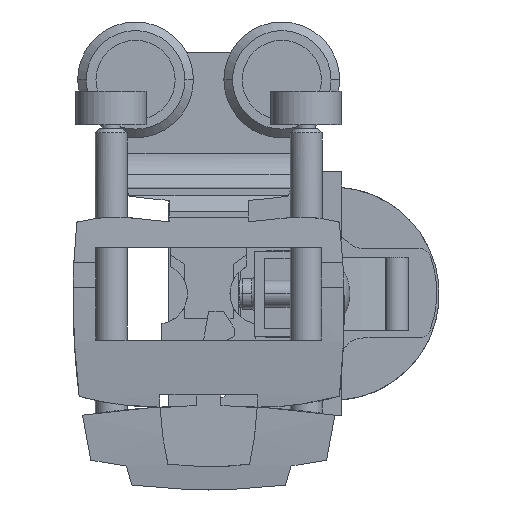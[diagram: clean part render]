
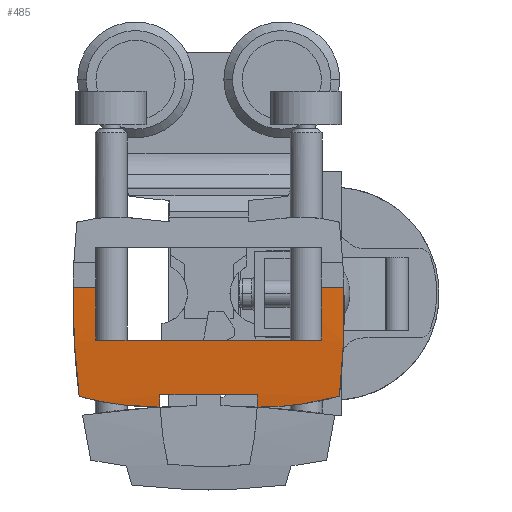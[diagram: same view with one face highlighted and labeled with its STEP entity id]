
A CAD part, front view. The second image highlights one B-rep face of the part: STEP entity #485.
In plain terms, the highlighted cylindrical face has radius 155 mm (diameter 310 mm), a partial arc.
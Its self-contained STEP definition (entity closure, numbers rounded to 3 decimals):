
#485 = ADVANCED_FACE( '', ( #1389 ), #1390, .T. );
#1389 = FACE_OUTER_BOUND( '', #2335, .T. );
#1390 = CYLINDRICAL_SURFACE( '', #2336, 155. );
#2335 = EDGE_LOOP( '', ( #6008, #6009, #6010, #6011, #6012, #6013, #6014, #6015, #6016, #6017, #6018, #6019 ) );
#2336 = AXIS2_PLACEMENT_3D( '', #6020, #6021, #6022 );
#6008 = ORIENTED_EDGE( '', *, *, #7434, .F. );
#6009 = ORIENTED_EDGE( '', *, *, #7591, .F. );
#6010 = ORIENTED_EDGE( '', *, *, #7543, .F. );
#6011 = ORIENTED_EDGE( '', *, *, #7592, .F. );
#6012 = ORIENTED_EDGE( '', *, *, #7593, .F. );
#6013 = ORIENTED_EDGE( '', *, *, #7306, .F. );
#6014 = ORIENTED_EDGE( '', *, *, #7594, .F. );
#6015 = ORIENTED_EDGE( '', *, *, #7515, .F. );
#6016 = ORIENTED_EDGE( '', *, *, #7567, .F. );
#6017 = ORIENTED_EDGE( '', *, *, #7418, .F. );
#6018 = ORIENTED_EDGE( '', *, *, #7359, .T. );
#6019 = ORIENTED_EDGE( '', *, *, #7314, .F. );
#6020 = CARTESIAN_POINT( '', ( 23., 135.987, 3.101 ) );
#6021 = DIRECTION( '', ( 1., 0., 0. ) );
#6022 = DIRECTION( '', ( 0., -0.989, -0.149 ) );
#7306 = EDGE_CURVE( '', #9273, #9274, #9275, .T. );
#7314 = EDGE_CURVE( '', #9286, #9287, #9288, .T. );
#7359 = EDGE_CURVE( '', #9347, #9287, #9348, .T. );
#7418 = EDGE_CURVE( '', #9347, #9438, #9439, .T. );
#7434 = EDGE_CURVE( '', #9465, #9286, #9467, .T. );
#7515 = EDGE_CURVE( '', #9590, #9592, #9593, .T. );
#7543 = EDGE_CURVE( '', #9635, #9637, #9638, .T. );
#7567 = EDGE_CURVE( '', #9438, #9590, #9675, .T. );
#7591 = EDGE_CURVE( '', #9637, #9465, #9714, .T. );
#7592 = EDGE_CURVE( '', #9715, #9635, #9716, .T. );
#7593 = EDGE_CURVE( '', #9274, #9715, #9717, .T. );
#7594 = EDGE_CURVE( '', #9592, #9273, #9718, .T. );
#9273 = VERTEX_POINT( '', #12536 );
#9274 = VERTEX_POINT( '', #12537 );
#9275 = LINE( '', #12538, #12539 );
#9286 = VERTEX_POINT( '', #12557 );
#9287 = VERTEX_POINT( '', #12558 );
#9288 = LINE( '', #12559, #12560 );
#9347 = VERTEX_POINT( '', #12740 );
#9348 = CIRCLE( '', #12741, 155. );
#9438 = VERTEX_POINT( '', #12998 );
#9439 = LINE( '', #12999, #13000 );
#9465 = VERTEX_POINT( '', #13064 );
#9467 = CIRCLE( '', #13067, 155. );
#9590 = VERTEX_POINT( '', #13233 );
#9592 = VERTEX_POINT( '', #13236 );
#9593 = B_SPLINE_CURVE_WITH_KNOTS( '', 3, ( #13237, #13238, #13239, #13240, #13241, #13242, #13243, #13244, #13245, #13246 ), .UNSPECIFIED., .F., .F., ( 4, 2, 2, 2, 4 ), ( 63.32, 66.796, 71.554, 76.312, 76.48 ), .UNSPECIFIED. );
#9635 = VERTEX_POINT( '', #13354 );
#9637 = VERTEX_POINT( '', #13357 );
#9638 = B_SPLINE_CURVE_WITH_KNOTS( '', 3, ( #13358, #13359, #13360, #13361, #13362, #13363, #13364, #13365 ), .UNSPECIFIED., .F., .F., ( 4, 2, 2, 4 ), ( 9.044, 13.947, 20.921, 25.919 ), .UNSPECIFIED. );
#9675 = B_SPLINE_CURVE_WITH_KNOTS( '', 3, ( #13489, #13490, #13491, #13492, #13493, #13494, #13495, #13496 ), .UNSPECIFIED., .F., .F., ( 4, 2, 2, 4 ), ( 29.925, 34.885, 41.862, 46.764 ), .UNSPECIFIED. );
#9714 = LINE( '', #13581, #13582 );
#9715 = VERTEX_POINT( '', #13583 );
#9716 = B_SPLINE_CURVE_WITH_KNOTS( '', 3, ( #13584, #13585, #13586, #13587, #13588, #13589, #13590, #13591, #13592, #13593 ), .UNSPECIFIED., .F., .F., ( 4, 2, 2, 2, 4 ), ( 76.226, 76.298, 81.055, 85.812, 89.189 ), .UNSPECIFIED. );
#9717 = ELLIPSE( '', #13594, 155.006, 155. );
#9718 = ELLIPSE( '', #13595, 155.006, 155. );
#12536 = CARTESIAN_POINT( '', ( 8., -17.756, -16.6 ) );
#12537 = CARTESIAN_POINT( '', ( -8., -17.756, -16.6 ) );
#12538 = CARTESIAN_POINT( '', ( 0., -17.756, -16.6 ) );
#12539 = VECTOR( '', #15142, 1. );
#12557 = CARTESIAN_POINT( '', ( -18.5, -18.644, -7.6 ) );
#12558 = CARTESIAN_POINT( '', ( 18.5, -18.644, -7.6 ) );
#12559 = CARTESIAN_POINT( '', ( 13.1, -18.644, -7.6 ) );
#12560 = VECTOR( '', #15150, 1. );
#12740 = CARTESIAN_POINT( '', ( 18.5, -19., 1.066 ) );
#12741 = AXIS2_PLACEMENT_3D( '', #15230, #15231, #15232 );
#12998 = CARTESIAN_POINT( '', ( 22.186, -19., 1.066 ) );
#12999 = CARTESIAN_POINT( '', ( -0.007, -19., 1.066 ) );
#13000 = VECTOR( '', #15309, 1. );
#13064 = CARTESIAN_POINT( '', ( -18.5, -19., 1.066 ) );
#13067 = AXIS2_PLACEMENT_3D( '', #15327, #15328, #15329 );
#13233 = CARTESIAN_POINT( '', ( 21.45, -17.729, -16.812 ) );
#13236 = CARTESIAN_POINT( '', ( 8.017, -17.487, -18.6 ) );
#13237 = CARTESIAN_POINT( '', ( 21.45, -17.729, -16.812 ) );
#13238 = CARTESIAN_POINT( '', ( 20.271, -17.687, -17.136 ) );
#13239 = CARTESIAN_POINT( '', ( 19.083, -17.65, -17.415 ) );
#13240 = CARTESIAN_POINT( '', ( 16.265, -17.575, -17.972 ) );
#13241 = CARTESIAN_POINT( '', ( 14.631, -17.541, -18.211 ) );
#13242 = CARTESIAN_POINT( '', ( 11.384, -17.497, -18.525 ) );
#13243 = CARTESIAN_POINT( '', ( 9.772, -17.487, -18.6 ) );
#13244 = CARTESIAN_POINT( '', ( 8.13, -17.487, -18.6 ) );
#13245 = CARTESIAN_POINT( '', ( 8.073, -17.487, -18.6 ) );
#13246 = CARTESIAN_POINT( '', ( 8.017, -17.487, -18.6 ) );
#13354 = CARTESIAN_POINT( '', ( -21.25, -17.725, -16.839 ) );
#13357 = CARTESIAN_POINT( '', ( -22.237, -19., 1.066 ) );
#13358 = CARTESIAN_POINT( '', ( -21.25, -17.725, -16.839 ) );
#13359 = CARTESIAN_POINT( '', ( -21.46, -17.943, -15.159 ) );
#13360 = CARTESIAN_POINT( '', ( -21.639, -18.136, -13.456 ) );
#13361 = CARTESIAN_POINT( '', ( -21.992, -18.537, -9.29 ) );
#13362 = CARTESIAN_POINT( '', ( -22.132, -18.716, -6.811 ) );
#13363 = CARTESIAN_POINT( '', ( -22.25, -18.921, -2.528 ) );
#13364 = CARTESIAN_POINT( '', ( -22.262, -18.976, -0.731 ) );
#13365 = CARTESIAN_POINT( '', ( -22.237, -19., 1.066 ) );
#13489 = CARTESIAN_POINT( '', ( 22.186, -19., 1.066 ) );
#13490 = CARTESIAN_POINT( '', ( 22.235, -18.977, -0.717 ) );
#13491 = CARTESIAN_POINT( '', ( 22.248, -18.922, -2.499 ) );
#13492 = CARTESIAN_POINT( '', ( 22.19, -18.719, -6.771 ) );
#13493 = CARTESIAN_POINT( '', ( 22.085, -18.54, -9.254 ) );
#13494 = CARTESIAN_POINT( '', ( 21.791, -18.14, -13.424 ) );
#13495 = CARTESIAN_POINT( '', ( 21.636, -17.947, -15.129 ) );
#13496 = CARTESIAN_POINT( '', ( 21.45, -17.729, -16.812 ) );
#13581 = CARTESIAN_POINT( '', ( -0.007, -19., 1.066 ) );
#13582 = VECTOR( '', #15583, 1. );
#13583 = CARTESIAN_POINT( '', ( -8.017, -17.487, -18.6 ) );
#13584 = CARTESIAN_POINT( '', ( -8.017, -17.487, -18.6 ) );
#13585 = CARTESIAN_POINT( '', ( -8.041, -17.487, -18.6 ) );
#13586 = CARTESIAN_POINT( '', ( -8.065, -17.487, -18.6 ) );
#13587 = CARTESIAN_POINT( '', ( -9.675, -17.487, -18.6 ) );
#13588 = CARTESIAN_POINT( '', ( -11.287, -17.497, -18.524 ) );
#13589 = CARTESIAN_POINT( '', ( -14.533, -17.541, -18.21 ) );
#13590 = CARTESIAN_POINT( '', ( -16.166, -17.575, -17.972 ) );
#13591 = CARTESIAN_POINT( '', ( -18.951, -17.649, -17.422 ) );
#13592 = CARTESIAN_POINT( '', ( -20.104, -17.685, -17.151 ) );
#13593 = CARTESIAN_POINT( '', ( -21.25, -17.725, -16.839 ) );
#13594 = AXIS2_PLACEMENT_3D( '', #15584, #15585, #15586 );
#13595 = AXIS2_PLACEMENT_3D( '', #15587, #15588, #15589 );
#15142 = DIRECTION( '', ( -1., 0., 0. ) );
#15150 = DIRECTION( '', ( 1., 0., 0. ) );
#15230 = CARTESIAN_POINT( '', ( 18.5, 135.987, 3.101 ) );
#15231 = DIRECTION( '', ( 1., 0., 0. ) );
#15232 = DIRECTION( '', ( 0., -0.989, -0.149 ) );
#15309 = DIRECTION( '', ( 1., 0., 0. ) );
#15327 = CARTESIAN_POINT( '', ( -18.5, 135.987, 3.101 ) );
#15328 = DIRECTION( '', ( 1., 0., 0. ) );
#15329 = DIRECTION( '', ( 0., -0.989, -0.149 ) );
#15583 = DIRECTION( '', ( 1., 0., 0. ) );
#15584 = CARTESIAN_POINT( '', ( -7.833, 135.987, 3.101 ) );
#15585 = DIRECTION( '', ( 1., 0., -0.008 ) );
#15586 = DIRECTION( '', ( -0.008, 0., -1. ) );
#15587 = CARTESIAN_POINT( '', ( 7.833, 135.987, 3.101 ) );
#15588 = DIRECTION( '', ( -1., 0., -0.008 ) );
#15589 = DIRECTION( '', ( 0.008, 0., -1. ) );
